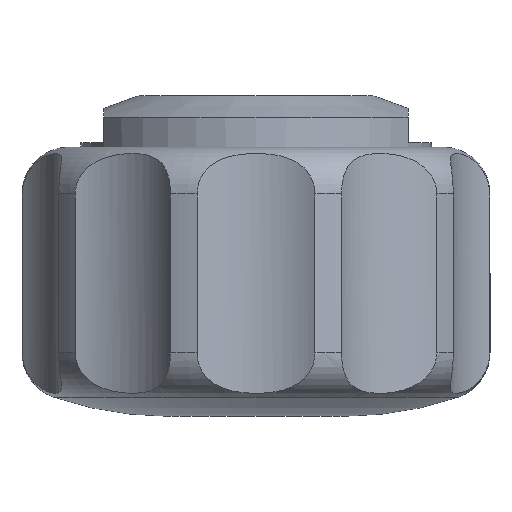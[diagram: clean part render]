
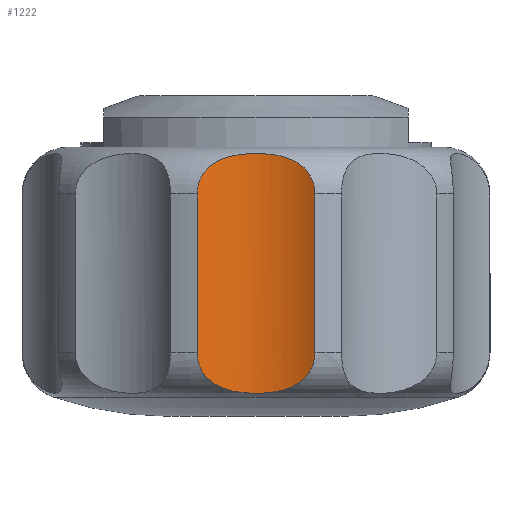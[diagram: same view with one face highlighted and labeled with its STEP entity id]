
A CAD part, front view. The second image highlights one B-rep face of the part: STEP entity #1222.
In plain terms, the highlighted cylindrical face has radius 5 mm (diameter 10 mm), a partial arc.
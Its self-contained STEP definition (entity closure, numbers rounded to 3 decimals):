
#12 = CARTESIAN_POINT ( 'NONE',  ( 2.515, -9.679, -8.786 ) ) ;
#35 = FACE_OUTER_BOUND ( 'NONE', #656, .T. ) ;
#59 = CARTESIAN_POINT ( 'NONE',  ( -1.917, -9.375, -10.043 ) ) ;
#69 = EDGE_CURVE ( 'NONE', #1474, #1700, #1183, .T. ) ;
#140 = CARTESIAN_POINT ( 'NONE',  ( -1.011, -9.101, -0.367 ) ) ;
#146 = ORIENTED_EDGE ( 'NONE', *, *, #1503, .T. ) ;
#218 = CARTESIAN_POINT ( 'NONE',  ( -1.15, -9.126, -10.393 ) ) ;
#287 = CARTESIAN_POINT ( 'NONE',  ( 2.495, -9.667, -1.707 ) ) ;
#296 = CARTESIAN_POINT ( 'NONE',  ( -1.419, -9.203, -0.488 ) ) ;
#348 = CYLINDRICAL_SURFACE ( 'NONE', #1962, 5. ) ;
#350 = VECTOR ( 'NONE', #668, 1000. ) ;
#369 = CARTESIAN_POINT ( 'NONE',  ( -0.291, -9., -10.518 ) ) ;
#439 = CARTESIAN_POINT ( 'NONE',  ( 2.358, -9.59, -1.294 ) ) ;
#445 = CARTESIAN_POINT ( 'NONE',  ( -1.796, -9.332, -0.677 ) ) ;
#523 = LINE ( 'NONE', #1679, #1740 ) ;
#526 = CARTESIAN_POINT ( 'NONE',  ( 0.584, -9.026, -10.496 ) ) ;
#560 = VERTEX_POINT ( 'NONE', #653 ) ;
#596 = CARTESIAN_POINT ( 'NONE',  ( 1.917, -9.375, -0.742 ) ) ;
#605 = CARTESIAN_POINT ( 'NONE',  ( -2.117, -9.469, -0.944 ) ) ;
#628 = CARTESIAN_POINT ( 'NONE',  ( 2.208, -9.513, -9.733 ) ) ;
#635 = ORIENTED_EDGE ( 'NONE', *, *, #1405, .T. ) ;
#653 = CARTESIAN_POINT ( 'NONE',  ( -2.515, -9.679, -2. ) ) ;
#656 = EDGE_LOOP ( 'NONE', ( #635, #146, #1521, #933 ) ) ;
#665 = CARTESIAN_POINT ( 'NONE',  ( -2.515, -9.679, -8.934 ) ) ;
#668 = DIRECTION ( 'NONE',  ( 0., 0., 1. ) ) ;
#686 = CARTESIAN_POINT ( 'NONE',  ( 1.15, -9.132, -10.385 ) ) ;
#750 = CARTESIAN_POINT ( 'NONE',  ( 2.515, -9.679, -2. ) ) ;
#757 = CARTESIAN_POINT ( 'NONE',  ( 1.15, -9.126, -0.393 ) ) ;
#761 = CARTESIAN_POINT ( 'NONE',  ( -2.358, -9.59, -1.292 ) ) ;
#783 = CARTESIAN_POINT ( 'NONE',  ( 2.416, -9.622, -9.359 ) ) ;
#804 = CARTESIAN_POINT ( 'NONE',  ( 0., -14., -11.5 ) ) ;
#832 = CARTESIAN_POINT ( 'NONE',  ( -2.417, -9.623, -9.359 ) ) ;
#843 = CARTESIAN_POINT ( 'NONE',  ( 1.55, -9.245, -10.243 ) ) ;
#877 = B_SPLINE_CURVE_WITH_KNOTS ( 'NONE', 3,
 ( #750, #1809, #287, #1363, #439, #1506, #596, #1658, #757, #1816, #911, #1963, #1061, #140, #1210, #296, #1370, #445, #1514, #605, #1665, #761, #1824, #918, #1970, #1066 ),
 .UNSPECIFIED., .F., .F.,
 ( 4, 2, 2, 2, 2, 2, 2, 2, 2, 2, 2, 2, 4 ),
 ( 0., 0., 0.001, 0.002, 0.003, 0.004, 0.004, 0.005, 0.005, 0.006, 0.006, 0.007, 0.007 ),
 .UNSPECIFIED. ) ;
#911 = CARTESIAN_POINT ( 'NONE',  ( 0.291, -9., -0.268 ) ) ;
#918 = CARTESIAN_POINT ( 'NONE',  ( -2.494, -9.666, -1.704 ) ) ;
#933 = ORIENTED_EDGE ( 'NONE', *, *, #69, .T. ) ;
#942 = CARTESIAN_POINT ( 'NONE',  ( 2.515, -9.679, -8.934 ) ) ;
#967 = EDGE_CURVE ( 'NONE', #1559, #1474, #1376, .T. ) ;
#986 = CARTESIAN_POINT ( 'NONE',  ( -2.134, -9.475, -9.853 ) ) ;
#996 = CARTESIAN_POINT ( 'NONE',  ( 1.91, -9.378, -10.03 ) ) ;
#1061 = CARTESIAN_POINT ( 'NONE',  ( -0.584, -9.026, -0.289 ) ) ;
#1066 = CARTESIAN_POINT ( 'NONE',  ( -2.515, -9.679, -2. ) ) ;
#1107 = DIRECTION ( 'NONE',  ( 1., 0., 0. ) ) ;
#1134 = CARTESIAN_POINT ( 'NONE',  ( -1.427, -9.201, -10.31 ) ) ;
#1183 = LINE ( 'NONE', #1425, #350 ) ;
#1210 = CARTESIAN_POINT ( 'NONE',  ( -1.15, -9.132, -0.401 ) ) ;
#1222 = ADVANCED_FACE ( 'NONE', ( #35 ), #348, .F. ) ;
#1259 = DIRECTION ( 'NONE',  ( 0., 0., 1. ) ) ;
#1289 = CARTESIAN_POINT ( 'NONE',  ( -0.586, -9.026, -10.496 ) ) ;
#1363 = CARTESIAN_POINT ( 'NONE',  ( 2.417, -9.623, -1.426 ) ) ;
#1370 = CARTESIAN_POINT ( 'NONE',  ( -1.55, -9.245, -0.543 ) ) ;
#1376 = B_SPLINE_CURVE_WITH_KNOTS ( 'NONE', 3,
 ( #1738, #665, #1435, #832, #1889, #986, #59, #1134, #218, #1289, #369, #1445, #526, #1584, #686, #1750, #843, #1898, #996, #1749, #628, #1691, #783, #1844, #942, #12 ),
 .UNSPECIFIED., .F., .F.,
 ( 4, 2, 2, 2, 2, 2, 2, 2, 2, 2, 2, 2, 4 ),
 ( 0., 0., 0.001, 0.002, 0.003, 0.004, 0.004, 0.005, 0.005, 0.006, 0.006, 0.007, 0.007 ),
 .UNSPECIFIED. ) ;
#1383 = DIRECTION ( 'NONE',  ( 0., 0., -1. ) ) ;
#1392 = CARTESIAN_POINT ( 'NONE',  ( -2.515, -9.679, -8.786 ) ) ;
#1405 = EDGE_CURVE ( 'NONE', #1700, #560, #877, .T. ) ;
#1425 = CARTESIAN_POINT ( 'NONE',  ( 2.515, -9.679, -4.65 ) ) ;
#1435 = CARTESIAN_POINT ( 'NONE',  ( -2.495, -9.667, -9.078 ) ) ;
#1445 = CARTESIAN_POINT ( 'NONE',  ( 0.293, -9., -10.518 ) ) ;
#1474 = VERTEX_POINT ( 'NONE', #1828 ) ;
#1503 = EDGE_CURVE ( 'NONE', #560, #1559, #523, .T. ) ;
#1506 = CARTESIAN_POINT ( 'NONE',  ( 2.134, -9.475, -0.932 ) ) ;
#1514 = CARTESIAN_POINT ( 'NONE',  ( -1.91, -9.378, -0.756 ) ) ;
#1521 = ORIENTED_EDGE ( 'NONE', *, *, #967, .T. ) ;
#1559 = VERTEX_POINT ( 'NONE', #1392 ) ;
#1584 = CARTESIAN_POINT ( 'NONE',  ( 1.011, -9.101, -10.418 ) ) ;
#1658 = CARTESIAN_POINT ( 'NONE',  ( 1.427, -9.201, -0.476 ) ) ;
#1665 = CARTESIAN_POINT ( 'NONE',  ( -2.208, -9.513, -1.052 ) ) ;
#1679 = CARTESIAN_POINT ( 'NONE',  ( -2.515, -9.679, -4.65 ) ) ;
#1691 = CARTESIAN_POINT ( 'NONE',  ( 2.358, -9.59, -9.493 ) ) ;
#1700 = VERTEX_POINT ( 'NONE', #1973 ) ;
#1738 = CARTESIAN_POINT ( 'NONE',  ( -2.515, -9.679, -8.786 ) ) ;
#1740 = VECTOR ( 'NONE', #1383, 1000. ) ;
#1749 = CARTESIAN_POINT ( 'NONE',  ( 2.117, -9.469, -9.842 ) ) ;
#1750 = CARTESIAN_POINT ( 'NONE',  ( 1.419, -9.203, -10.297 ) ) ;
#1809 = CARTESIAN_POINT ( 'NONE',  ( 2.515, -9.679, -1.852 ) ) ;
#1816 = CARTESIAN_POINT ( 'NONE',  ( 0.586, -9.026, -0.29 ) ) ;
#1824 = CARTESIAN_POINT ( 'NONE',  ( -2.416, -9.622, -1.426 ) ) ;
#1828 = CARTESIAN_POINT ( 'NONE',  ( 2.515, -9.679, -8.786 ) ) ;
#1844 = CARTESIAN_POINT ( 'NONE',  ( 2.494, -9.666, -9.082 ) ) ;
#1889 = CARTESIAN_POINT ( 'NONE',  ( -2.358, -9.59, -9.492 ) ) ;
#1898 = CARTESIAN_POINT ( 'NONE',  ( 1.796, -9.332, -10.109 ) ) ;
#1962 = AXIS2_PLACEMENT_3D ( 'NONE', #804, #1259, #1107 ) ;
#1963 = CARTESIAN_POINT ( 'NONE',  ( -0.293, -9., -0.268 ) ) ;
#1970 = CARTESIAN_POINT ( 'NONE',  ( -2.515, -9.679, -1.852 ) ) ;
#1973 = CARTESIAN_POINT ( 'NONE',  ( 2.515, -9.679, -2. ) ) ;
